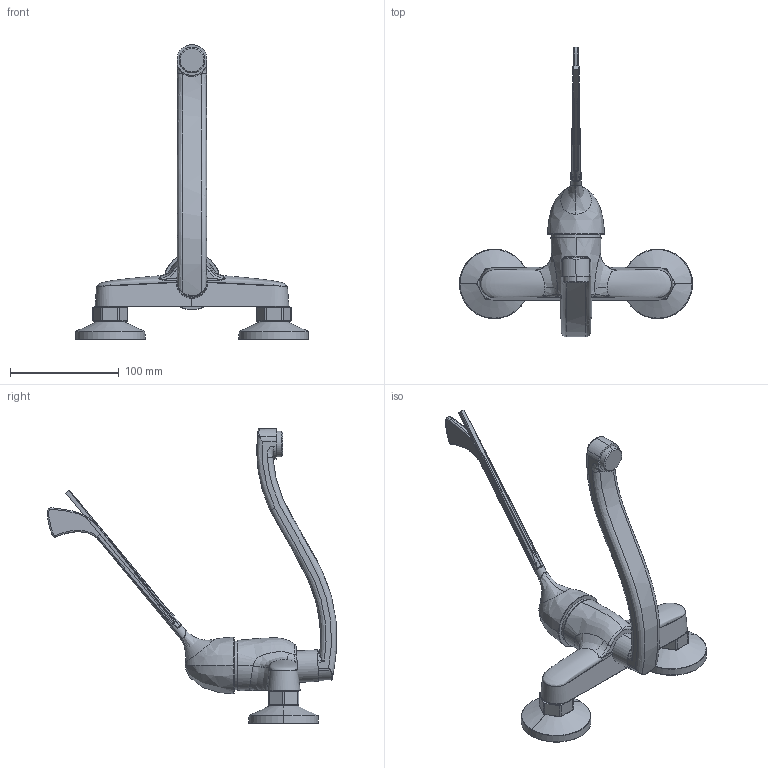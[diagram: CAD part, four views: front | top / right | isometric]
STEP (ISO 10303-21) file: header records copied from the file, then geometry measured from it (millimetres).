
FILE_DESCRIPTION (( 'STEP AP203' ), '1' );
FILE_NAME ('HM1106.STEP', '2017-12-16T08:47:56', ( '' ), ( '' ), 'SwSTEP 2.0', 'SolidWorks 2017', '' );
FILE_SCHEMA (( 'CONFIG_CONTROL_DESIGN' ));
Length unit declared in the file: millimetre
Products named in the file (1): HM1106
Bounding box: 214 x 265.56 x 270.31 mm (x, y, z)
Volume: 408677.8 mm3; surface area: 84896.3 mm2
Topology: 7 solids, 7 shells, 368 faces, 860 edges, 465 vertices
Faces by surface type: bspline 129, plane 83, cylinder 77, torus 40, cone 38, sphere 1
Entity records: 38081 total; most frequent: CARTESIAN_POINT 30925, ORIENTED_EDGE 1628, DIRECTION 1254, EDGE_CURVE 814, AXIS2_PLACEMENT_3D 499, VERTEX_POINT 464, EDGE_LOOP 376, FACE_OUTER_BOUND 368
